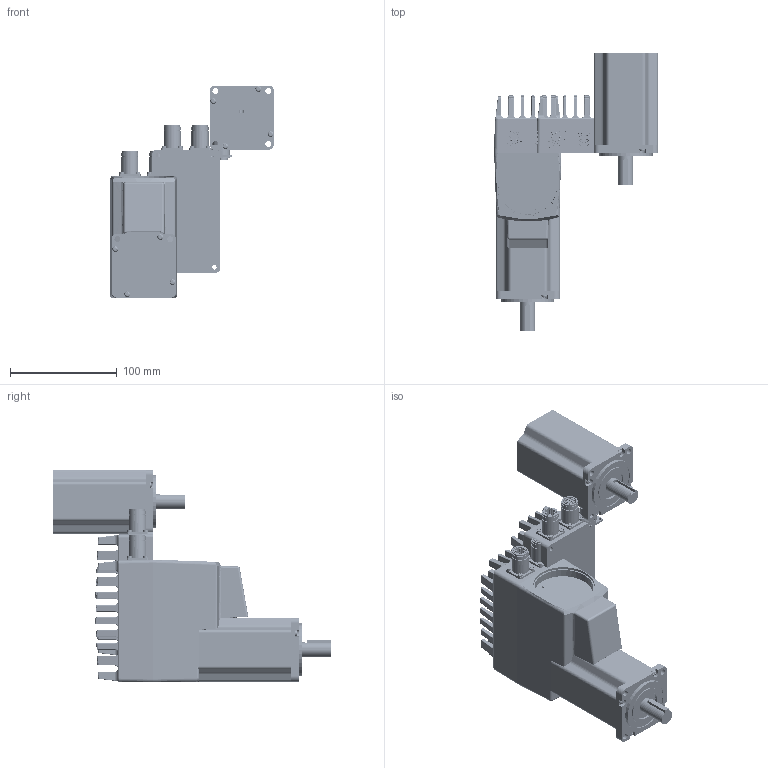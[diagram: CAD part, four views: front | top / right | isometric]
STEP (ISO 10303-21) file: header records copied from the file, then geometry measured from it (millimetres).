
FILE_DESCRIPTION( ( 'Unknown' ), '1' );
FILE_NAME( 'K:/JVL/MACxxx/MAC400/Mekanik/CAD Download tegninger MAC400/MAC400-D2/MAC400-D2.stp', 'Unknown', ( 'Unknown' ), ( 'Unknown' ), 'PSStep 10.1', 'Unknown', ' ' );
FILE_SCHEMA( ( 'AUTOMOTIVE_DESIGN { 1 0 10303 214 1 1 1 1 }' ) );
Length unit declared in the file: millimetre
Products named in the file (12): Assem1; Heat sink; Stik house; Male house; male; Female; heat sink; M2,5x6 torx; female house; House MAC400; Key f motor; D2 motor
Bounding box: 153.29 x 260 x 199.41 mm (x, y, z)
Volume: 2140923 mm3; surface area: 320949.4 mm2
Topology: 55 solids, 55 shells, 6273 faces, 15379 edges, 8886 vertices
Faces by surface type: cylinder 2405, plane 1428, bspline 1258, sphere 627, torus 510, cone 38, extrusion 7
Full cylindrical faces by diameter (mm): 0.9 x12, 1 x12, 1.6 x39, 1.65 x9, 1.7 x12, 1.8 x6, 2 x18, 2.013 x4, 2.5 x41, 2.6 x29, 2.64 x9, 2.8 x18, 4.2 x12, 4.4 x17, 5.5 x20, 9 x2, 10 x6, 12 x3, 12.5 x5, 12.7 x6, 12.8 x6, 13.7 x6, 14 x2, 14.9 x10, 15.2 x6, 15.5 x5, 16 x5, 16.2 x5, 17 x5, 28 x2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
Entity records: 115969 total; most frequent: CARTESIAN_POINT 54802, ORIENTED_EDGE 9570, DIRECTION 8897, EDGE_CURVE 4785, AXIS2_PLACEMENT_3D 3686, VERTEX_POINT 2901, EDGE_LOOP 2284, FACE_OUTER_BOUND 2158
